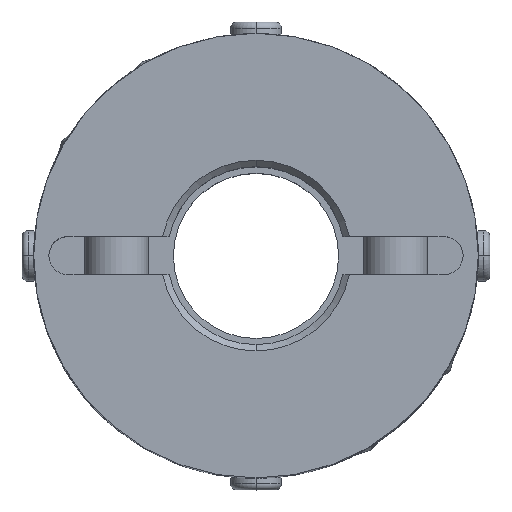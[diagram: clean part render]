
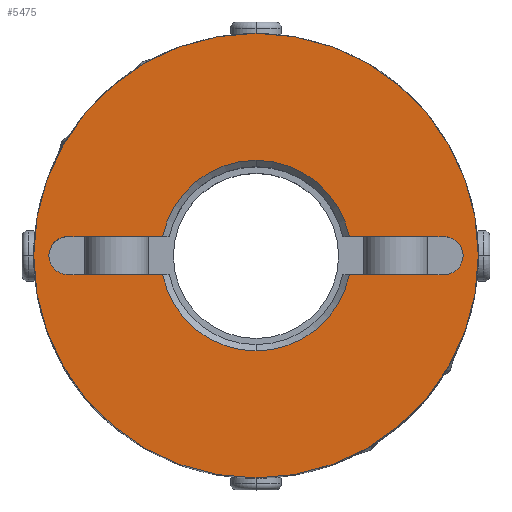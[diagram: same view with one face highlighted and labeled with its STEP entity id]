
A CAD part, top view. The second image highlights one B-rep face of the part: STEP entity #5475.
In plain terms, the highlighted planar face has unit normal (0, 0, 1).
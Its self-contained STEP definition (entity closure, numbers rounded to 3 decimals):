
#2886=CARTESIAN_POINT('',(15.861,1.061,17.5));
#2887=VERTEX_POINT('',#2886);
#2903=CARTESIAN_POINT('',(14.8,-1.5,17.5));
#2904=VERTEX_POINT('',#2903);
#2911=CARTESIAN_POINT('',(14.8,0.,17.5));
#2912=DIRECTION('',(0.0,0.0,1.0));
#2913=DIRECTION('',(0.707,-0.707,0.0));
#2914=AXIS2_PLACEMENT_3D('',#2911,#2912,#2913);
#2915=CIRCLE('',#2914,1.5);
#2916=EDGE_CURVE('',#2904,#2887,#2915,.T.);
#2928=CARTESIAN_POINT('',(-15.861,-1.061,17.5));
#2929=VERTEX_POINT('',#2928);
#2945=CARTESIAN_POINT('',(-14.8,1.5,17.5));
#2946=VERTEX_POINT('',#2945);
#2953=CARTESIAN_POINT('',(-14.8,0.,17.5));
#2954=DIRECTION('',(0.0,0.0,1.0));
#2955=DIRECTION('',(-0.707,0.707,0.0));
#2956=AXIS2_PLACEMENT_3D('',#2953,#2954,#2955);
#2957=CIRCLE('',#2956,1.5);
#2958=EDGE_CURVE('',#2946,#2929,#2957,.T.);
#3460=CARTESIAN_POINT('',(0.,17.5,17.5));
#3461=VERTEX_POINT('',#3460);
#3468=CARTESIAN_POINT('',(0.,-17.5,17.5));
#3469=VERTEX_POINT('',#3468);
#3470=CARTESIAN_POINT('',(0.0,0.0,17.5));
#3471=DIRECTION('',(0.0,0.0,-1.0));
#3472=DIRECTION('',(0.0,-1.0,0.0));
#3473=AXIS2_PLACEMENT_3D('',#3470,#3471,#3472);
#3474=CIRCLE('',#3473,17.5);
#3475=EDGE_CURVE('',#3461,#3469,#3474,.T.);
#4380=CARTESIAN_POINT('',(0.,7.5,17.5));
#4381=VERTEX_POINT('',#4380);
#4389=CARTESIAN_POINT('',(7.348,1.5,17.5));
#4390=VERTEX_POINT('',#4389);
#4404=CARTESIAN_POINT('',(0.,0.,17.5));
#4405=DIRECTION('',(0.0,0.0,1.0));
#4406=DIRECTION('',(0.0,1.0,0.0));
#4407=AXIS2_PLACEMENT_3D('',#4404,#4405,#4406);
#4408=CIRCLE('',#4407,7.5);
#4409=EDGE_CURVE('',#4390,#4381,#4408,.T.);
#4419=CARTESIAN_POINT('',(0.,-7.5,17.5));
#4420=VERTEX_POINT('',#4419);
#4436=CARTESIAN_POINT('',(-7.348,-1.5,17.5));
#4437=VERTEX_POINT('',#4436);
#4451=CARTESIAN_POINT('',(0.,0.,17.5));
#4452=DIRECTION('',(0.0,0.0,1.0));
#4453=DIRECTION('',(0.0,-1.0,0.0));
#4454=AXIS2_PLACEMENT_3D('',#4451,#4452,#4453);
#4455=CIRCLE('',#4454,7.5);
#4456=EDGE_CURVE('',#4437,#4420,#4455,.T.);
#5191=CARTESIAN_POINT('',(14.8,1.5,17.5));
#5192=VERTEX_POINT('',#5191);
#5199=CARTESIAN_POINT('',(7.348,1.5,17.5));
#5200=DIRECTION('',(1.0,0.0,0.0));
#5201=VECTOR('',#5200,7.452);
#5202=LINE('',#5199,#5201);
#5203=EDGE_CURVE('',#4390,#5192,#5202,.T.);
#5360=CARTESIAN_POINT('',(7.348,-1.5,17.5));
#5361=VERTEX_POINT('',#5360);
#5375=CARTESIAN_POINT('',(14.8,-1.5,17.5));
#5376=DIRECTION('',(-1.0,0.0,0.0));
#5377=VECTOR('',#5376,7.452);
#5378=LINE('',#5375,#5377);
#5379=EDGE_CURVE('',#2904,#5361,#5378,.T.);
#5402=CARTESIAN_POINT('',(0.,0.,17.5));
#5403=DIRECTION('',(0.0,0.0,1.0));
#5404=DIRECTION('',(0.0,-1.0,0.0));
#5405=AXIS2_PLACEMENT_3D('',#5402,#5403,#5404);
#5406=CIRCLE('',#5405,7.5);
#5407=EDGE_CURVE('',#4420,#5361,#5406,.T.);
#5414=CARTESIAN_POINT('',(0.,-1.591,17.5));
#5415=DIRECTION('',(0.0,0.0,1.0));
#5416=DIRECTION('',(0.0,-1.0,0.0));
#5417=AXIS2_PLACEMENT_3D('',#5414,#5415,#5416);
#5418=PLANE('',#5417);
#5419=CARTESIAN_POINT('',(0.0,0.0,17.5));
#5420=DIRECTION('',(0.0,0.0,-1.0));
#5421=DIRECTION('',(0.0,-1.0,0.0));
#5422=AXIS2_PLACEMENT_3D('',#5419,#5420,#5421);
#5423=CIRCLE('',#5422,17.5);
#5424=EDGE_CURVE('',#3469,#3461,#5423,.T.);
#5425=ORIENTED_EDGE('',*,*,#5424,.F.);
#5426=ORIENTED_EDGE('',*,*,#3475,.F.);
#5427=EDGE_LOOP('',(#5425,#5426));
#5428=FACE_OUTER_BOUND('',#5427,.T.);
#5429=ORIENTED_EDGE('',*,*,#4456,.F.);
#5430=CARTESIAN_POINT('',(-14.8,-1.5,17.5));
#5431=VERTEX_POINT('',#5430);
#5432=CARTESIAN_POINT('',(-7.348,-1.5,17.5));
#5433=DIRECTION('',(-1.0,0.0,0.0));
#5434=VECTOR('',#5433,7.452);
#5435=LINE('',#5432,#5434);
#5436=EDGE_CURVE('',#4437,#5431,#5435,.T.);
#5437=ORIENTED_EDGE('',*,*,#5436,.T.);
#5438=CARTESIAN_POINT('',(-14.8,0.,17.5));
#5439=DIRECTION('',(0.0,0.0,1.0));
#5440=DIRECTION('',(-0.707,0.707,0.0));
#5441=AXIS2_PLACEMENT_3D('',#5438,#5439,#5440);
#5442=CIRCLE('',#5441,1.5);
#5443=EDGE_CURVE('',#2929,#5431,#5442,.T.);
#5444=ORIENTED_EDGE('',*,*,#5443,.F.);
#5445=ORIENTED_EDGE('',*,*,#2958,.F.);
#5446=CARTESIAN_POINT('',(-7.348,1.5,17.5));
#5447=VERTEX_POINT('',#5446);
#5448=CARTESIAN_POINT('',(-14.8,1.5,17.5));
#5449=DIRECTION('',(1.0,0.0,0.0));
#5450=VECTOR('',#5449,7.452);
#5451=LINE('',#5448,#5450);
#5452=EDGE_CURVE('',#2946,#5447,#5451,.T.);
#5453=ORIENTED_EDGE('',*,*,#5452,.T.);
#5454=CARTESIAN_POINT('',(0.,0.,17.5));
#5455=DIRECTION('',(0.0,0.0,1.0));
#5456=DIRECTION('',(0.0,1.0,0.0));
#5457=AXIS2_PLACEMENT_3D('',#5454,#5455,#5456);
#5458=CIRCLE('',#5457,7.5);
#5459=EDGE_CURVE('',#4381,#5447,#5458,.T.);
#5460=ORIENTED_EDGE('',*,*,#5459,.F.);
#5461=ORIENTED_EDGE('',*,*,#4409,.F.);
#5462=ORIENTED_EDGE('',*,*,#5203,.T.);
#5463=CARTESIAN_POINT('',(14.8,0.,17.5));
#5464=DIRECTION('',(0.0,0.0,1.0));
#5465=DIRECTION('',(0.707,-0.707,0.0));
#5466=AXIS2_PLACEMENT_3D('',#5463,#5464,#5465);
#5467=CIRCLE('',#5466,1.5);
#5468=EDGE_CURVE('',#2887,#5192,#5467,.T.);
#5469=ORIENTED_EDGE('',*,*,#5468,.F.);
#5470=ORIENTED_EDGE('',*,*,#2916,.F.);
#5471=ORIENTED_EDGE('',*,*,#5379,.T.);
#5472=ORIENTED_EDGE('',*,*,#5407,.F.);
#5473=EDGE_LOOP('',(#5429,#5437,#5444,#5445,#5453,#5460,#5461,#5462,#5469,#5470,#5471,#5472));
#5474=FACE_BOUND('',#5473,.T.);
#5475=ADVANCED_FACE('',(#5428,#5474),#5418,.T.);
